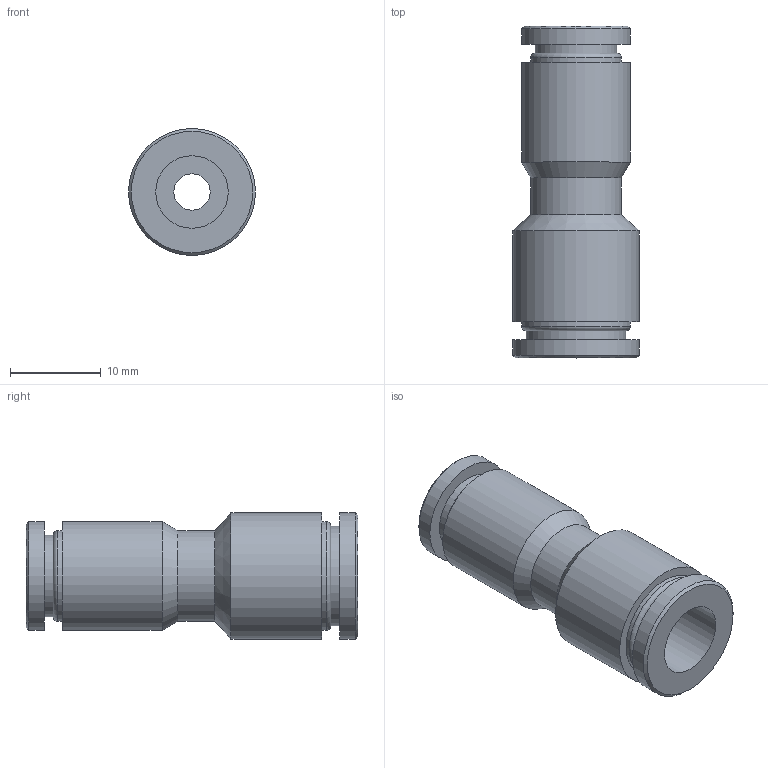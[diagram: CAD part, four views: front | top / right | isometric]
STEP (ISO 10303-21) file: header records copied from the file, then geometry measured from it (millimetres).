
FILE_DESCRIPTION(/* description */ (''),/* implementation_level */ '2;1');
FILE_NAME(/* name */ 'LXH10 0806 00.stp',/* time_stamp */ '2026-04-29T14:24:42+02:00',/* author */ ('freju'),/* organization */ (''),/* preprocessor_version */ 'ST-DEVELOPER v20.1',/* originating_system */ 'Autodesk Inventor 2026',/* authorisation */ '');
FILE_SCHEMA (('AUTOMOTIVE_DESIGN { 1 0 10303 214 3 1 1 }'));
Length unit declared in the file: millimetre
Products named in the file (1): LXH10 0806 00
Bounding box: 14 x 36.6 x 14 mm (x, y, z)
Volume: 2999.7 mm3; surface area: 2651.3 mm2
Topology: 1 solids, 1 shells, 26 faces, 51 edges, 33 vertices
Faces by surface type: cylinder 12, plane 8, cone 4, torus 2
Full cylindrical faces by diameter (mm): 4 x1, 6 x1, 8 x1, 9 x1, 10 x2, 11 x1, 12 x3, 14 x2
Entity records: 733 total; most frequent: DIRECTION 140, CARTESIAN_POINT 111, ORIENTED_EDGE 102, AXIS2_PLACEMENT_3D 62, EDGE_CURVE 51, CIRCLE 35, EDGE_LOOP 34, VERTEX_POINT 33
